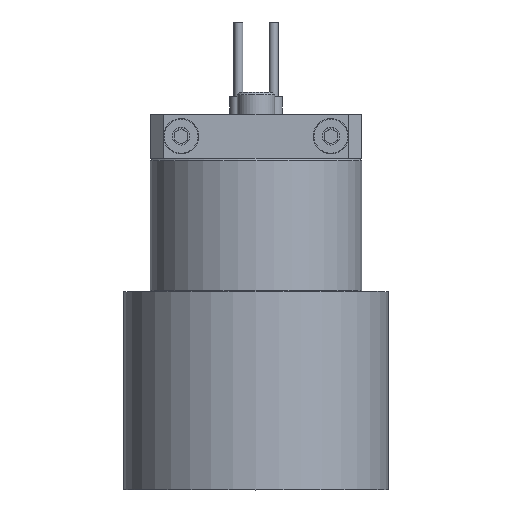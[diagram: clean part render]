
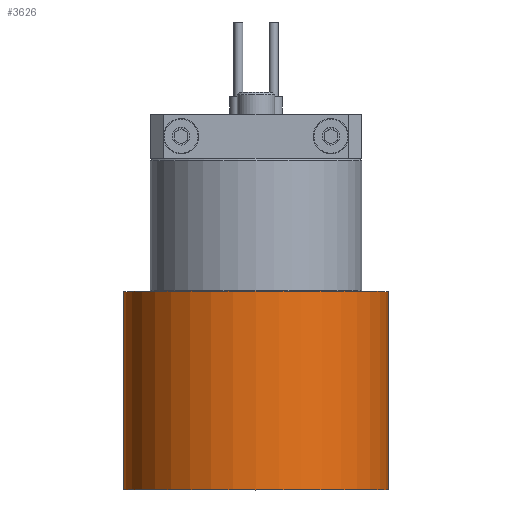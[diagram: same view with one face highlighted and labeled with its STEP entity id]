
A CAD part, top view. The second image highlights one B-rep face of the part: STEP entity #3626.
In plain terms, the highlighted cylindrical face has radius 30 mm (diameter 60 mm), a full revolution.
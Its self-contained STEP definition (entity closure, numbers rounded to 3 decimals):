
#452=LINE('',#6030,#692);
#692=VECTOR('',#4817,30.);
#874=CYLINDRICAL_SURFACE('',#4072,30.);
#969=FACE_OUTER_BOUND('',#1194,.T.);
#1194=EDGE_LOOP('',(#2834,#2835,#2836,#2837,#2838,#2839));
#1451=CIRCLE('',#4070,30.);
#1452=CIRCLE('',#4071,30.);
#1453=CIRCLE('',#4073,30.);
#1454=CIRCLE('',#4074,30.);
#1752=VERTEX_POINT('',#6021);
#1753=VERTEX_POINT('',#6022);
#1754=VERTEX_POINT('',#6026);
#1755=VERTEX_POINT('',#6027);
#2164=EDGE_CURVE('',#1752,#1753,#1451,.T.);
#2165=EDGE_CURVE('',#1753,#1752,#1452,.T.);
#2166=EDGE_CURVE('',#1754,#1755,#1453,.T.);
#2167=EDGE_CURVE('',#1755,#1754,#1454,.T.);
#2168=EDGE_CURVE('',#1755,#1753,#452,.T.);
#2834=ORIENTED_EDGE('',*,*,#2166,.F.);
#2835=ORIENTED_EDGE('',*,*,#2167,.F.);
#2836=ORIENTED_EDGE('',*,*,#2168,.T.);
#2837=ORIENTED_EDGE('',*,*,#2165,.T.);
#2838=ORIENTED_EDGE('',*,*,#2164,.T.);
#2839=ORIENTED_EDGE('',*,*,#2168,.F.);
#3626=ADVANCED_FACE('',(#969),#874,.T.);
#4070=AXIS2_PLACEMENT_3D('',#6023,#4807,#4808);
#4071=AXIS2_PLACEMENT_3D('',#6024,#4809,#4810);
#4072=AXIS2_PLACEMENT_3D('',#6025,#4811,#4812);
#4073=AXIS2_PLACEMENT_3D('',#6028,#4813,#4814);
#4074=AXIS2_PLACEMENT_3D('',#6029,#4815,#4816);
#4807=DIRECTION('center_axis',(0.,-1.,0.));
#4808=DIRECTION('ref_axis',(1.,0.,0.));
#4809=DIRECTION('center_axis',(0.,-1.,0.));
#4810=DIRECTION('ref_axis',(1.,0.,0.));
#4811=DIRECTION('center_axis',(0.,-1.,0.));
#4812=DIRECTION('ref_axis',(1.,0.,0.));
#4813=DIRECTION('center_axis',(0.,-1.,0.));
#4814=DIRECTION('ref_axis',(1.,0.,0.));
#4815=DIRECTION('center_axis',(0.,-1.,0.));
#4816=DIRECTION('ref_axis',(1.,0.,0.));
#4817=DIRECTION('',(0.,1.,0.));
#6021=CARTESIAN_POINT('',(30.,45.,0.));
#6022=CARTESIAN_POINT('',(-30.,45.,0.));
#6023=CARTESIAN_POINT('Origin',(0.,45.,0.));
#6024=CARTESIAN_POINT('Origin',(0.,45.,0.));
#6025=CARTESIAN_POINT('Origin',(0.,22.5,0.));
#6026=CARTESIAN_POINT('',(30.,0.,0.));
#6027=CARTESIAN_POINT('',(-30.,0.,0.));
#6028=CARTESIAN_POINT('Origin',(0.,0.,0.));
#6029=CARTESIAN_POINT('Origin',(0.,0.,0.));
#6030=CARTESIAN_POINT('',(-30.,22.5,0.));
